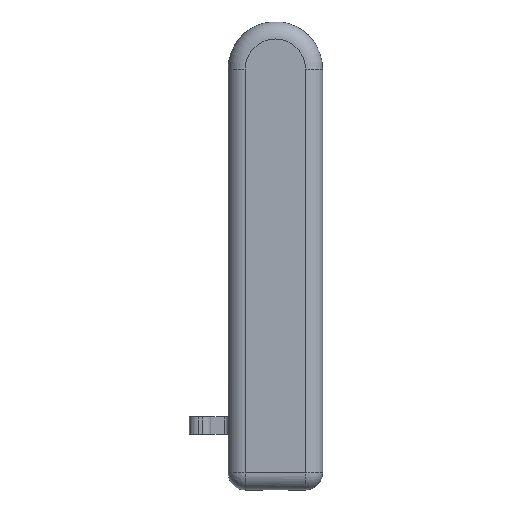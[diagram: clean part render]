
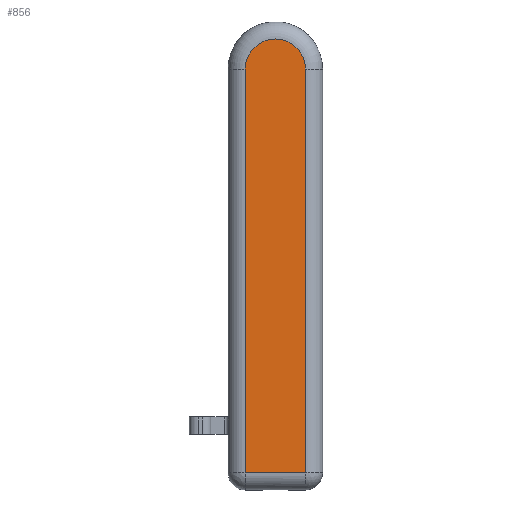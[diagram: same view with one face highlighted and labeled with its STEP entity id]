
A CAD part, front view. The second image highlights one B-rep face of the part: STEP entity #856.
In plain terms, the highlighted planar face has unit normal (0, -1, 0).
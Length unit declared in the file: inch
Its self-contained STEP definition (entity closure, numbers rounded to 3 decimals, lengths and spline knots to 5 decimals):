
#38=PLANE('',#967);
#87=FACE_OUTER_BOUND('',#134,.T.);
#134=EDGE_LOOP('',(#783,#784,#785,#786));
#197=LINE('',#1549,#264);
#201=LINE('',#1568,#268);
#202=LINE('',#1573,#269);
#264=VECTOR('',#1190,3.70079);
#268=VECTOR('',#1216,3.70079);
#269=VECTOR('',#1225,0.55118);
#319=CIRCLE('',#964,0.27559);
#404=VERTEX_POINT('',#1542);
#405=VERTEX_POINT('',#1547);
#408=VERTEX_POINT('',#1559);
#409=VERTEX_POINT('',#1567);
#524=EDGE_CURVE('',#405,#404,#197,.T.);
#533=EDGE_CURVE('',#408,#409,#201,.T.);
#535=EDGE_CURVE('',#409,#405,#319,.T.);
#536=EDGE_CURVE('',#404,#408,#202,.T.);
#783=ORIENTED_EDGE('',*,*,#533,.F.);
#784=ORIENTED_EDGE('',*,*,#536,.F.);
#785=ORIENTED_EDGE('',*,*,#524,.F.);
#786=ORIENTED_EDGE('',*,*,#535,.F.);
#856=ADVANCED_FACE('',(#87),#38,.F.);
#964=AXIS2_PLACEMENT_3D('',#1571,#1221,#1222);
#967=AXIS2_PLACEMENT_3D('',#1575,#1228,#1229);
#1190=DIRECTION('',(0.,0.,-1.));
#1216=DIRECTION('',(0.,0.,1.));
#1221=DIRECTION('center_axis',(0.,1.,0.));
#1222=DIRECTION('ref_axis',(0.,0.,1.));
#1225=DIRECTION('',(-1.,0.,0.));
#1228=DIRECTION('center_axis',(0.,1.,0.));
#1229=DIRECTION('ref_axis',(0.,0.,1.));
#1542=CARTESIAN_POINT('',(0.27559,-0.43307,0.19685));
#1547=CARTESIAN_POINT('',(0.27559,-0.43307,3.89764));
#1549=CARTESIAN_POINT('',(0.27559,-0.43307,3.89764));
#1559=CARTESIAN_POINT('',(-0.27559,-0.43307,0.19685));
#1567=CARTESIAN_POINT('',(-0.27559,-0.43307,3.89764));
#1568=CARTESIAN_POINT('',(-0.27559,-0.43307,0.19685));
#1571=CARTESIAN_POINT('Origin',(0.,-0.43307,
3.89764));
#1573=CARTESIAN_POINT('',(0.27559,-0.43307,0.19685));
#1575=CARTESIAN_POINT('Origin',(0.,-0.43307,
3.89764));
